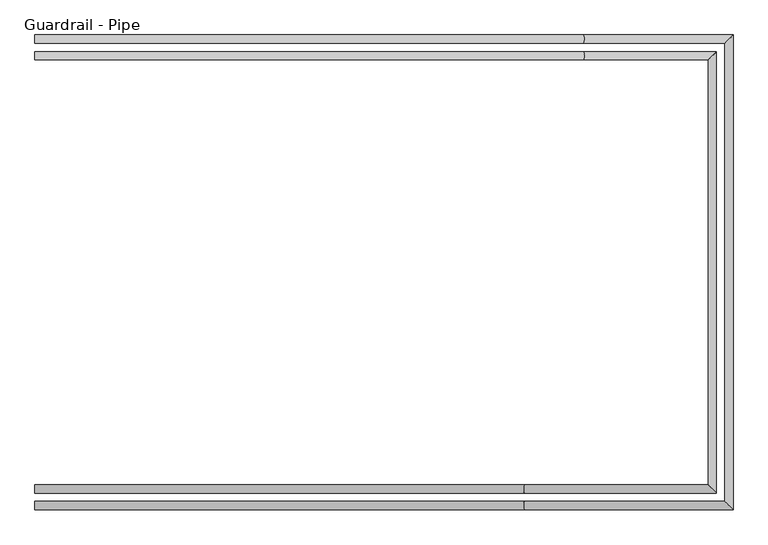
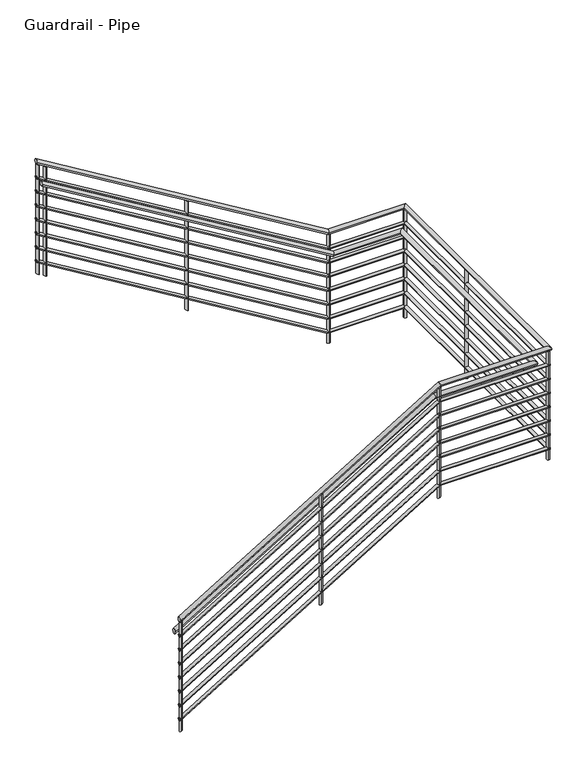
"""IFC4 building model written with IfcOpenShell, lengths in millimetres: railing geometry, Guardrail - Pipe."""

from ifc_helpers import new_model, si_unit, point, frame, frame_2d, origin, place, context, project, spatial, circle_curve, ellipse_curve, trimmed, segment, composite_curve, outline, extrude, source, transform, mapped, element, save
from ifc_brep_helpers import plane_surface, cylinder_surface, advanced_brep


def guardrail_pipe_b2484e20(model_context):
    return source(origin(), model_context, "Body", "SolidModel", [
        advanced_brep(
        [(-2912.5266552, 8373.427236, 1213.8577857), (-2912.5266552, 8335.327236, 1213.8577857), (-672.0045016, 8373.427236, 2571.75), (-672.0045016, 8335.327236, 2571.75), (243.4233448, 8373.427236, 2571.75), (281.5233448, 8335.327236, 2571.75), (243.4233448, 10468.927236, 2571.75), (281.5233448, 10507.027236, 2571.75), (-403.2488087, 10468.927236, 2571.75), (-403.2488087, 10507.027236, 2571.75), (-2912.5266552, 10468.927236, 4092.5244524), (-2912.5266552, 10507.027236, 4092.5244524)],
        [
            (0, 1, ellipse_curve(frame((-2912.5266552, 8354.377236, 1213.8577857), z_axis=(-1.0, 0.0, 0.0), x_axis=(0.0, 0.0, -1.0)), 22.2755476, 19.05)),
            (1, 0, ellipse_curve(frame((-2912.5266552, 8354.377236, 1213.8577857), z_axis=(-1.0, 0.0, 0.0), x_axis=(0.0, 0.0, -1.0)), 22.2755476, 19.05)),
            (0, 2),
            (2, 3, ellipse_curve(frame((-672.0045016, 8354.377236, 2571.75), z_axis=(-0.9631193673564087, 0.0, -0.2690744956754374), x_axis=(0.26907449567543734, 0.0, -0.9631193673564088)), 19.7794797, 19.05)),
            (3, 1),
            (3, 2, ellipse_curve(frame((-672.0045016, 8354.377236, 2571.75), z_axis=(-0.9631193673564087, 0.0, -0.2690744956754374), x_axis=(0.26907449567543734, 0.0, -0.9631193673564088)), 19.7794797, 19.05)),
            (2, 4),
            (4, 5, ellipse_curve(frame((262.4733448, 8354.377236, 2571.75), z_axis=(-0.7071067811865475, -0.7071067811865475, 0.0), x_axis=(-0.7071067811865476, 0.7071067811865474, 0.0)), 26.9407684, 19.05)),
            (5, 3),
            (5, 4, ellipse_curve(frame((262.4733448, 8354.377236, 2571.75), z_axis=(-0.7071067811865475, -0.7071067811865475, 0.0), x_axis=(-0.7071067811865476, 0.7071067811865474, 0.0)), 26.9407684, 19.05)),
            (4, 6),
            (6, 7, ellipse_curve(frame((262.4733448, 10487.977236, 2571.75), z_axis=(0.7071067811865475, -0.7071067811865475, 0.0), x_axis=(-0.7071067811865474, -0.7071067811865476, 0.0)), 26.9407684, 19.05)),
            (7, 5),
            (7, 6, ellipse_curve(frame((262.4733448, 10487.977236, 2571.75), z_axis=(0.7071067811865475, -0.7071067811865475, 0.0), x_axis=(-0.7071067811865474, -0.7071067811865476, 0.0)), 26.9407684, 19.05)),
            (6, 8),
            (8, 9, ellipse_curve(frame((-403.2488087, 10487.977236, 2571.75), z_axis=(0.9631193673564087, 0.0, -0.26907449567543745), x_axis=(0.26907449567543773, 0.0, 0.9631193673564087)), 19.7794797, 19.05)),
            (9, 7),
            (9, 8, ellipse_curve(frame((-403.2488087, 10487.977236, 2571.75), z_axis=(0.9631193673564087, 0.0, -0.26907449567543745), x_axis=(0.26907449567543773, 0.0, 0.9631193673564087)), 19.7794797, 19.05)),
            (10, 11, ellipse_curve(frame((-2912.5266552, 10487.977236, 4092.5244524), z_axis=(-1.0, 0.0, 0.0), x_axis=(0.0, 0.0, -1.0)), 22.2755476, 19.05)),
            (11, 10, ellipse_curve(frame((-2912.5266552, 10487.977236, 4092.5244524), z_axis=(-1.0, 0.0, 0.0), x_axis=(0.0, 0.0, -1.0)), 22.2755476, 19.05)),
            (8, 10),
            (11, 9),
        ],
        [
            plane_surface(frame((-2912.5266552, 8354.377236, 1236.1333333), z_axis=(-1.0, 0.0, 0.0), x_axis=(0.0, 1.0, 0.0))),
            cylinder_surface(frame((-2902.6530075, 8354.377236, 1219.8418146), z_axis=(-0.8551978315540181, 0.0, -0.5183017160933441), x_axis=(0.0, -1.0, 0.0)), 19.05),
            cylinder_surface(frame((-677.3266552, 8354.377236, 2571.75), z_axis=(-1.0, 0.0, 0.0), x_axis=(0.0, -1.0, 0.0)), 19.05),
            cylinder_surface(frame((262.4733448, 8354.377236, 2571.75), z_axis=(0.0, -1.0, 0.0), x_axis=(1.0, 0.0, 0.0)), 19.05),
            cylinder_surface(frame((262.4733448, 10487.977236, 2571.75), z_axis=(1.0, 0.0, 0.0), x_axis=(0.0, 1.0, 0.0)), 19.05),
            plane_surface(frame((-2912.5266552, 10487.977236, 4114.8), z_axis=(-1.0, 0.0, 0.0), x_axis=(0.0, -1.0, 0.0))),
            cylinder_surface(frame((-407.8003029, 10487.977236, 2574.5084813), z_axis=(0.855197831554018, 0.0, -0.5183017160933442), x_axis=(0.0, 1.0, 0.0)), 19.05),
        ],
        [
            (0, [[1, 2]]),
            (1, [[-1, 3, 4, 5]]),
            (1, [[-2, -5, 6, -3]]),
            (2, [[-4, 7, 8, 9]]),
            (2, [[-6, -9, 10, -7]]),
            (3, [[-8, 11, 12, 13]]),
            (3, [[-10, -13, 14, -11]]),
            (4, [[-12, 15, 16, 17]]),
            (4, [[-14, -17, 18, -15]]),
            (5, [[19, 20]]),
            (6, [[-16, 21, -20, 22]]),
            (6, [[-18, -22, -19, -21]]),
        ],
    ),
        advanced_brep(
        [(-2912.5266552, 8367.077236, 1068.8829683), (-2912.5266552, 8341.677236, 1068.8829683), (-673.7785528, 8367.077236, 2425.7), (-673.7785528, 8341.677236, 2425.7), (249.7733448, 8367.077236, 2425.7), (275.1733448, 8341.677236, 2425.7), (249.7733448, 10475.277236, 2425.7), (275.1733448, 10500.677236, 2425.7), (-401.4747575, 10475.277236, 2425.7), (-401.4747575, 10500.677236, 2425.7), (-2912.5266552, 10475.277236, 3947.5496349), (-2912.5266552, 10500.677236, 3947.5496349)],
        [
            (0, 1, ellipse_curve(frame((-2912.5266552, 8354.377236, 1068.8829683), z_axis=(-1.0, 0.0, 0.0), x_axis=(0.0, 0.0, -1.0)), 14.8503651, 12.7)),
            (1, 0, ellipse_curve(frame((-2912.5266552, 8354.377236, 1068.8829683), z_axis=(-1.0, 0.0, 0.0), x_axis=(0.0, 0.0, -1.0)), 14.8503651, 12.7)),
            (0, 2),
            (2, 3, ellipse_curve(frame((-673.7785528, 8354.377236, 2425.7), z_axis=(-0.9631193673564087, 0.0, -0.2690744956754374), x_axis=(0.26907449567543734, 0.0, -0.9631193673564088)), 13.1863198, 12.7)),
            (3, 1),
            (3, 2, ellipse_curve(frame((-673.7785528, 8354.377236, 2425.7), z_axis=(-0.9631193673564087, 0.0, -0.2690744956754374), x_axis=(0.26907449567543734, 0.0, -0.9631193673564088)), 13.1863198, 12.7)),
            (2, 4),
            (4, 5, ellipse_curve(frame((262.4733448, 8354.377236, 2425.7), z_axis=(-0.7071067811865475, -0.7071067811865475, 0.0), x_axis=(-0.7071067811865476, 0.7071067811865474, 0.0)), 17.9605122, 12.7)),
            (5, 3),
            (5, 4, ellipse_curve(frame((262.4733448, 8354.377236, 2425.7), z_axis=(-0.7071067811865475, -0.7071067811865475, 0.0), x_axis=(-0.7071067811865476, 0.7071067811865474, 0.0)), 17.9605122, 12.7)),
            (4, 6),
            (6, 7, ellipse_curve(frame((262.4733448, 10487.977236, 2425.7), z_axis=(0.7071067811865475, -0.7071067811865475, 0.0), x_axis=(-0.7071067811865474, -0.7071067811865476, 0.0)), 17.9605122, 12.7)),
            (7, 5),
            (7, 6, ellipse_curve(frame((262.4733448, 10487.977236, 2425.7), z_axis=(0.7071067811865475, -0.7071067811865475, 0.0), x_axis=(-0.7071067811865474, -0.7071067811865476, 0.0)), 17.9605122, 12.7)),
            (6, 8),
            (8, 9, ellipse_curve(frame((-401.4747575, 10487.977236, 2425.7), z_axis=(0.9631193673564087, 0.0, -0.26907449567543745), x_axis=(0.26907449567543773, 0.0, 0.9631193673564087)), 13.1863198, 12.7)),
            (9, 7),
            (9, 8, ellipse_curve(frame((-401.4747575, 10487.977236, 2425.7), z_axis=(0.9631193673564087, 0.0, -0.26907449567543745), x_axis=(0.26907449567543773, 0.0, 0.9631193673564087)), 13.1863198, 12.7)),
            (10, 11, ellipse_curve(frame((-2912.5266552, 10487.977236, 3947.5496349), z_axis=(-1.0, 0.0, 0.0), x_axis=(0.0, 0.0, -1.0)), 14.8503651, 12.7)),
            (11, 10, ellipse_curve(frame((-2912.5266552, 10487.977236, 3947.5496349), z_axis=(-1.0, 0.0, 0.0), x_axis=(0.0, 0.0, -1.0)), 14.8503651, 12.7)),
            (8, 10),
            (11, 9),
        ],
        [
            plane_surface(frame((-2912.5266552, 8354.377236, 1083.7333333), z_axis=(-1.0, 0.0, 0.0), x_axis=(0.0, 1.0, 0.0))),
            cylinder_surface(frame((-2905.9442234, 8354.377236, 1072.8723209), z_axis=(-0.8551978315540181, 0.0, -0.5183017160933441), x_axis=(0.0, -1.0, 0.0)), 12.7),
            cylinder_surface(frame((-677.3266552, 8354.377236, 2425.7), z_axis=(-1.0, 0.0, 0.0), x_axis=(0.0, -1.0, 0.0)), 12.7),
            cylinder_surface(frame((262.4733448, 8354.377236, 2425.7), z_axis=(0.0, -1.0, 0.0), x_axis=(1.0, 0.0, 0.0)), 12.7),
            cylinder_surface(frame((262.4733448, 10487.977236, 2425.7), z_axis=(1.0, 0.0, 0.0), x_axis=(0.0, 1.0, 0.0)), 12.7),
            plane_surface(frame((-2912.5266552, 10487.977236, 3962.4), z_axis=(-1.0, 0.0, 0.0), x_axis=(0.0, -1.0, 0.0))),
            cylinder_surface(frame((-404.509087, 10487.977236, 2427.5389875), z_axis=(0.855197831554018, 0.0, -0.5183017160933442), x_axis=(0.0, 1.0, 0.0)), 12.7),
        ],
        [
            (0, [[1, 2]]),
            (1, [[-1, 3, 4, 5]]),
            (1, [[-2, -5, 6, -3]]),
            (2, [[-4, 7, 8, 9]]),
            (2, [[-6, -9, 10, -7]]),
            (3, [[-8, 11, 12, 13]]),
            (3, [[-10, -13, 14, -11]]),
            (4, [[-12, 15, 16, 17]]),
            (4, [[-14, -17, 18, -15]]),
            (5, [[19, 20]]),
            (6, [[-16, 21, -20, 22]]),
            (6, [[-18, -22, -19, -21]]),
        ],
    ),
        advanced_brep(
        [(-2912.5266552, 8449.627236, 1061.4577857), (-2912.5266552, 8411.527236, 1061.4577857), (-672.0045016, 8449.627236, 2419.35), (-672.0045016, 8411.527236, 2419.35), (167.2233448, 8449.627236, 2419.35), (205.3233448, 8411.527236, 2419.35), (167.2233448, 10392.727236, 2419.35), (205.3233448, 10430.827236, 2419.35), (-403.2488087, 10392.727236, 2419.35), (-403.2488087, 10430.827236, 2419.35), (-2912.5266552, 10392.727236, 3940.1244524), (-2912.5266552, 10430.827236, 3940.1244524)],
        [
            (0, 1, ellipse_curve(frame((-2912.5266552, 8430.577236, 1061.4577857), z_axis=(-1.0, 0.0, 0.0), x_axis=(0.0, 0.0, -1.0)), 22.2755476, 19.05)),
            (1, 0, ellipse_curve(frame((-2912.5266552, 8430.577236, 1061.4577857), z_axis=(-1.0, 0.0, 0.0), x_axis=(0.0, 0.0, -1.0)), 22.2755476, 19.05)),
            (0, 2),
            (2, 3, ellipse_curve(frame((-672.0045016, 8430.577236, 2419.35), z_axis=(-0.9631193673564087, 0.0, -0.2690744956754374), x_axis=(0.26907449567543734, 0.0, -0.9631193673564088)), 19.7794797, 19.05)),
            (3, 1),
            (3, 2, ellipse_curve(frame((-672.0045016, 8430.577236, 2419.35), z_axis=(-0.9631193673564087, 0.0, -0.2690744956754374), x_axis=(0.26907449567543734, 0.0, -0.9631193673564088)), 19.7794797, 19.05)),
            (2, 4),
            (4, 5, ellipse_curve(frame((186.2733448, 8430.577236, 2419.35), z_axis=(-0.7071067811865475, -0.7071067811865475, 0.0), x_axis=(-0.7071067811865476, 0.7071067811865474, 0.0)), 26.9407684, 19.05)),
            (5, 3),
            (5, 4, ellipse_curve(frame((186.2733448, 8430.577236, 2419.35), z_axis=(-0.7071067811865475, -0.7071067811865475, 0.0), x_axis=(-0.7071067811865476, 0.7071067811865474, 0.0)), 26.9407684, 19.05)),
            (4, 6),
            (6, 7, ellipse_curve(frame((186.2733448, 10411.777236, 2419.35), z_axis=(0.7071067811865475, -0.7071067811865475, 0.0), x_axis=(-0.7071067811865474, -0.7071067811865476, 0.0)), 26.9407684, 19.05)),
            (7, 5),
            (7, 6, ellipse_curve(frame((186.2733448, 10411.777236, 2419.35), z_axis=(0.7071067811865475, -0.7071067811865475, 0.0), x_axis=(-0.7071067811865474, -0.7071067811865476, 0.0)), 26.9407684, 19.05)),
            (6, 8),
            (8, 9, ellipse_curve(frame((-403.2488087, 10411.777236, 2419.35), z_axis=(0.9631193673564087, 0.0, -0.26907449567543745), x_axis=(0.26907449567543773, 0.0, 0.9631193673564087)), 19.7794797, 19.05)),
            (9, 7),
            (9, 8, ellipse_curve(frame((-403.2488087, 10411.777236, 2419.35), z_axis=(0.9631193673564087, 0.0, -0.26907449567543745), x_axis=(0.26907449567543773, 0.0, 0.9631193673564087)), 19.7794797, 19.05)),
            (10, 11, ellipse_curve(frame((-2912.5266552, 10411.777236, 3940.1244524), z_axis=(-1.0, 0.0, 0.0), x_axis=(0.0, 0.0, -1.0)), 22.2755476, 19.05)),
            (11, 10, ellipse_curve(frame((-2912.5266552, 10411.777236, 3940.1244524), z_axis=(-1.0, 0.0, 0.0), x_axis=(0.0, 0.0, -1.0)), 22.2755476, 19.05)),
            (8, 10),
            (11, 9),
        ],
        [
            plane_surface(frame((-2912.5266552, 8430.577236, 1083.7333333), z_axis=(-1.0, 0.0, 0.0), x_axis=(0.0, 1.0, 0.0))),
            cylinder_surface(frame((-2902.6530075, 8430.577236, 1067.4418146), z_axis=(-0.8551978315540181, 0.0, -0.5183017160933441), x_axis=(0.0, -1.0, 0.0)), 19.05),
            cylinder_surface(frame((-677.3266552, 8430.577236, 2419.35), z_axis=(-1.0, 0.0, 0.0), x_axis=(0.0, -1.0, 0.0)), 19.05),
            cylinder_surface(frame((186.2733448, 8430.577236, 2419.35), z_axis=(0.0, -1.0, 0.0), x_axis=(1.0, 0.0, 0.0)), 19.05),
            cylinder_surface(frame((186.2733448, 10411.777236, 2419.35), z_axis=(1.0, 0.0, 0.0), x_axis=(0.0, 1.0, 0.0)), 19.05),
            plane_surface(frame((-2912.5266552, 10411.777236, 3962.4), z_axis=(-1.0, 0.0, 0.0), x_axis=(0.0, -1.0, 0.0))),
            cylinder_surface(frame((-407.8003029, 10411.777236, 2422.1084813), z_axis=(0.855197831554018, 0.0, -0.5183017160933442), x_axis=(0.0, 1.0, 0.0)), 19.05),
        ],
        [
            (0, [[1, 2]]),
            (1, [[-1, 3, 4, 5]]),
            (1, [[-2, -5, 6, -3]]),
            (2, [[-4, 7, 8, 9]]),
            (2, [[-6, -9, 10, -7]]),
            (3, [[-8, 11, 12, 13]]),
            (3, [[-10, -13, 14, -11]]),
            (4, [[-12, 15, 16, 17]]),
            (4, [[-14, -17, 18, -15]]),
            (5, [[19, 20]]),
            (6, [[-16, 21, -20, 22]]),
            (6, [[-18, -22, -19, -21]]),
        ],
    ),
        advanced_brep(
        [(-2912.5266552, 8367.077236, 941.8829683), (-2912.5266552, 8341.677236, 941.8829683), (-673.7785528, 8367.077236, 2298.7), (-673.7785528, 8341.677236, 2298.7), (249.7733448, 8367.077236, 2298.7), (275.1733448, 8341.677236, 2298.7), (249.7733448, 10475.277236, 2298.7), (275.1733448, 10500.677236, 2298.7), (-401.4747575, 10475.277236, 2298.7), (-401.4747575, 10500.677236, 2298.7), (-2912.5266552, 10475.277236, 3820.5496349), (-2912.5266552, 10500.677236, 3820.5496349)],
        [
            (0, 1, ellipse_curve(frame((-2912.5266552, 8354.377236, 941.8829683), z_axis=(-1.0, 0.0, 0.0), x_axis=(0.0, 0.0, -1.0)), 14.8503651, 12.7)),
            (1, 0, ellipse_curve(frame((-2912.5266552, 8354.377236, 941.8829683), z_axis=(-1.0, 0.0, 0.0), x_axis=(0.0, 0.0, -1.0)), 14.8503651, 12.7)),
            (0, 2),
            (2, 3, ellipse_curve(frame((-673.7785528, 8354.377236, 2298.7), z_axis=(-0.9631193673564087, 0.0, -0.2690744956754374), x_axis=(0.26907449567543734, 0.0, -0.9631193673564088)), 13.1863198, 12.7)),
            (3, 1),
            (3, 2, ellipse_curve(frame((-673.7785528, 8354.377236, 2298.7), z_axis=(-0.9631193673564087, 0.0, -0.2690744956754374), x_axis=(0.26907449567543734, 0.0, -0.9631193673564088)), 13.1863198, 12.7)),
            (2, 4),
            (4, 5, ellipse_curve(frame((262.4733448, 8354.377236, 2298.7), z_axis=(-0.7071067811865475, -0.7071067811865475, 0.0), x_axis=(-0.7071067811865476, 0.7071067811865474, 0.0)), 17.9605122, 12.7)),
            (5, 3),
            (5, 4, ellipse_curve(frame((262.4733448, 8354.377236, 2298.7), z_axis=(-0.7071067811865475, -0.7071067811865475, 0.0), x_axis=(-0.7071067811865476, 0.7071067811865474, 0.0)), 17.9605122, 12.7)),
            (4, 6),
            (6, 7, ellipse_curve(frame((262.4733448, 10487.977236, 2298.7), z_axis=(0.7071067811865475, -0.7071067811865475, 0.0), x_axis=(-0.7071067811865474, -0.7071067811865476, 0.0)), 17.9605122, 12.7)),
            (7, 5),
            (7, 6, ellipse_curve(frame((262.4733448, 10487.977236, 2298.7), z_axis=(0.7071067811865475, -0.7071067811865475, 0.0), x_axis=(-0.7071067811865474, -0.7071067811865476, 0.0)), 17.9605122, 12.7)),
            (6, 8),
            (8, 9, ellipse_curve(frame((-401.4747575, 10487.977236, 2298.7), z_axis=(0.9631193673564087, 0.0, -0.26907449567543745), x_axis=(0.26907449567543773, 0.0, 0.9631193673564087)), 13.1863198, 12.7)),
            (9, 7),
            (9, 8, ellipse_curve(frame((-401.4747575, 10487.977236, 2298.7), z_axis=(0.9631193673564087, 0.0, -0.26907449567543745), x_axis=(0.26907449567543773, 0.0, 0.9631193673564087)), 13.1863198, 12.7)),
            (10, 11, ellipse_curve(frame((-2912.5266552, 10487.977236, 3820.5496349), z_axis=(-1.0, 0.0, 0.0), x_axis=(0.0, 0.0, -1.0)), 14.8503651, 12.7)),
            (11, 10, ellipse_curve(frame((-2912.5266552, 10487.977236, 3820.5496349), z_axis=(-1.0, 0.0, 0.0), x_axis=(0.0, 0.0, -1.0)), 14.8503651, 12.7)),
            (8, 10),
            (11, 9),
        ],
        [
            plane_surface(frame((-2912.5266552, 8354.377236, 956.7333333), z_axis=(-1.0, 0.0, 0.0), x_axis=(0.0, 1.0, 0.0))),
            cylinder_surface(frame((-2905.9442234, 8354.377236, 945.8723209), z_axis=(-0.8551978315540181, 0.0, -0.5183017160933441), x_axis=(0.0, -1.0, 0.0)), 12.7),
            cylinder_surface(frame((-677.3266552, 8354.377236, 2298.7), z_axis=(-1.0, 0.0, 0.0), x_axis=(0.0, -1.0, 0.0)), 12.7),
            cylinder_surface(frame((262.4733448, 8354.377236, 2298.7), z_axis=(0.0, -1.0, 0.0), x_axis=(1.0, 0.0, 0.0)), 12.7),
            cylinder_surface(frame((262.4733448, 10487.977236, 2298.7), z_axis=(1.0, 0.0, 0.0), x_axis=(0.0, 1.0, 0.0)), 12.7),
            plane_surface(frame((-2912.5266552, 10487.977236, 3835.4), z_axis=(-1.0, 0.0, 0.0), x_axis=(0.0, -1.0, 0.0))),
            cylinder_surface(frame((-404.509087, 10487.977236, 2300.5389875), z_axis=(0.8551978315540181, 0.0, -0.5183017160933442), x_axis=(0.0, 1.0, 0.0)), 12.7),
        ],
        [
            (0, [[1, 2]]),
            (1, [[-1, 3, 4, 5]]),
            (1, [[-2, -5, 6, -3]]),
            (2, [[-4, 7, 8, 9]]),
            (2, [[-6, -9, 10, -7]]),
            (3, [[-8, 11, 12, 13]]),
            (3, [[-10, -13, 14, -11]]),
            (4, [[-12, 15, 16, 17]]),
            (4, [[-14, -17, 18, -15]]),
            (5, [[19, 20]]),
            (6, [[-16, 21, -20, 22]]),
            (6, [[-18, -22, -19, -21]]),
        ],
    ),
        advanced_brep(
        [(-2912.5266552, 8367.077236, 814.8829683), (-2912.5266552, 8341.677236, 814.8829683), (-673.7785528, 8367.077236, 2171.7), (-673.7785528, 8341.677236, 2171.7), (249.7733448, 8367.077236, 2171.7), (275.1733448, 8341.677236, 2171.7), (249.7733448, 10475.277236, 2171.7), (275.1733448, 10500.677236, 2171.7), (-401.4747575, 10475.277236, 2171.7), (-401.4747575, 10500.677236, 2171.7), (-2912.5266552, 10475.277236, 3693.5496349), (-2912.5266552, 10500.677236, 3693.5496349)],
        [
            (0, 1, ellipse_curve(frame((-2912.5266552, 8354.377236, 814.8829683), z_axis=(-1.0, 0.0, 0.0), x_axis=(0.0, 0.0, -1.0)), 14.8503651, 12.7)),
            (1, 0, ellipse_curve(frame((-2912.5266552, 8354.377236, 814.8829683), z_axis=(-1.0, 0.0, 0.0), x_axis=(0.0, 0.0, -1.0)), 14.8503651, 12.7)),
            (0, 2),
            (2, 3, ellipse_curve(frame((-673.7785528, 8354.377236, 2171.7), z_axis=(-0.9631193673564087, 0.0, -0.2690744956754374), x_axis=(0.26907449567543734, 0.0, -0.9631193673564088)), 13.1863198, 12.7)),
            (3, 1),
            (3, 2, ellipse_curve(frame((-673.7785528, 8354.377236, 2171.7), z_axis=(-0.9631193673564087, 0.0, -0.2690744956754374), x_axis=(0.26907449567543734, 0.0, -0.9631193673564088)), 13.1863198, 12.7)),
            (2, 4),
            (4, 5, ellipse_curve(frame((262.4733448, 8354.377236, 2171.7), z_axis=(-0.7071067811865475, -0.7071067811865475, 0.0), x_axis=(-0.7071067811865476, 0.7071067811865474, 0.0)), 17.9605122, 12.7)),
            (5, 3),
            (5, 4, ellipse_curve(frame((262.4733448, 8354.377236, 2171.7), z_axis=(-0.7071067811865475, -0.7071067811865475, 0.0), x_axis=(-0.7071067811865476, 0.7071067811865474, 0.0)), 17.9605122, 12.7)),
            (4, 6),
            (6, 7, ellipse_curve(frame((262.4733448, 10487.977236, 2171.7), z_axis=(0.7071067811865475, -0.7071067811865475, 0.0), x_axis=(-0.7071067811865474, -0.7071067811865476, 0.0)), 17.9605122, 12.7)),
            (7, 5),
            (7, 6, ellipse_curve(frame((262.4733448, 10487.977236, 2171.7), z_axis=(0.7071067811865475, -0.7071067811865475, 0.0), x_axis=(-0.7071067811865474, -0.7071067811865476, 0.0)), 17.9605122, 12.7)),
            (6, 8),
            (8, 9, ellipse_curve(frame((-401.4747575, 10487.977236, 2171.7), z_axis=(0.9631193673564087, 0.0, -0.26907449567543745), x_axis=(0.26907449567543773, 0.0, 0.9631193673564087)), 13.1863198, 12.7)),
            (9, 7),
            (9, 8, ellipse_curve(frame((-401.4747575, 10487.977236, 2171.7), z_axis=(0.9631193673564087, 0.0, -0.26907449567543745), x_axis=(0.26907449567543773, 0.0, 0.9631193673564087)), 13.1863198, 12.7)),
            (10, 11, ellipse_curve(frame((-2912.5266552, 10487.977236, 3693.5496349), z_axis=(-1.0, 0.0, 0.0), x_axis=(0.0, 0.0, -1.0)), 14.8503651, 12.7)),
            (11, 10, ellipse_curve(frame((-2912.5266552, 10487.977236, 3693.5496349), z_axis=(-1.0, 0.0, 0.0), x_axis=(0.0, 0.0, -1.0)), 14.8503651, 12.7)),
            (8, 10),
            (11, 9),
        ],
        [
            plane_surface(frame((-2912.5266552, 8354.377236, 829.7333333), z_axis=(-1.0, 0.0, 0.0), x_axis=(0.0, 1.0, 0.0))),
            cylinder_surface(frame((-2905.9442234, 8354.377236, 818.8723209), z_axis=(-0.8551978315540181, 0.0, -0.5183017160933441), x_axis=(0.0, -1.0, 0.0)), 12.7),
            cylinder_surface(frame((-677.3266552, 8354.377236, 2171.7), z_axis=(-1.0, 0.0, 0.0), x_axis=(0.0, -1.0, 0.0)), 12.7),
            cylinder_surface(frame((262.4733448, 8354.377236, 2171.7), z_axis=(0.0, -1.0, 0.0), x_axis=(1.0, 0.0, 0.0)), 12.7),
            cylinder_surface(frame((262.4733448, 10487.977236, 2171.7), z_axis=(1.0, 0.0, 0.0), x_axis=(0.0, 1.0, 0.0)), 12.7),
            plane_surface(frame((-2912.5266552, 10487.977236, 3708.4), z_axis=(-1.0, 0.0, 0.0), x_axis=(0.0, -1.0, 0.0))),
            cylinder_surface(frame((-404.509087, 10487.977236, 2173.5389875), z_axis=(0.855197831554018, 0.0, -0.5183017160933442), x_axis=(0.0, 1.0, 0.0)), 12.7),
        ],
        [
            (0, [[1, 2]]),
            (1, [[-1, 3, 4, 5]]),
            (1, [[-2, -5, 6, -3]]),
            (2, [[-4, 7, 8, 9]]),
            (2, [[-6, -9, 10, -7]]),
            (3, [[-8, 11, 12, 13]]),
            (3, [[-10, -13, 14, -11]]),
            (4, [[-12, 15, 16, 17]]),
            (4, [[-14, -17, 18, -15]]),
            (5, [[19, 20]]),
            (6, [[-16, 21, -20, 22]]),
            (6, [[-18, -22, -19, -21]]),
        ],
    ),
        advanced_brep(
        [(-2912.5266552, 8367.077236, 687.8829683), (-2912.5266552, 8341.677236, 687.8829683), (-673.7785528, 8367.077236, 2044.7), (-673.7785528, 8341.677236, 2044.7), (249.7733448, 8367.077236, 2044.7), (275.1733448, 8341.677236, 2044.7), (249.7733448, 10475.277236, 2044.7), (275.1733448, 10500.677236, 2044.7), (-401.4747575, 10475.277236, 2044.7), (-401.4747575, 10500.677236, 2044.7), (-2912.5266552, 10475.277236, 3566.5496349), (-2912.5266552, 10500.677236, 3566.5496349)],
        [
            (0, 1, ellipse_curve(frame((-2912.5266552, 8354.377236, 687.8829683), z_axis=(-1.0, 0.0, 0.0), x_axis=(0.0, 0.0, -1.0)), 14.8503651, 12.7)),
            (1, 0, ellipse_curve(frame((-2912.5266552, 8354.377236, 687.8829683), z_axis=(-1.0, 0.0, 0.0), x_axis=(0.0, 0.0, -1.0)), 14.8503651, 12.7)),
            (0, 2),
            (2, 3, ellipse_curve(frame((-673.7785528, 8354.377236, 2044.7), z_axis=(-0.9631193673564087, 0.0, -0.2690744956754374), x_axis=(0.26907449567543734, 0.0, -0.9631193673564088)), 13.1863198, 12.7)),
            (3, 1),
            (3, 2, ellipse_curve(frame((-673.7785528, 8354.377236, 2044.7), z_axis=(-0.9631193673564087, 0.0, -0.2690744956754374), x_axis=(0.26907449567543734, 0.0, -0.9631193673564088)), 13.1863198, 12.7)),
            (2, 4),
            (4, 5, ellipse_curve(frame((262.4733448, 8354.377236, 2044.7), z_axis=(-0.7071067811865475, -0.7071067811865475, 0.0), x_axis=(-0.7071067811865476, 0.7071067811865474, 0.0)), 17.9605122, 12.7)),
            (5, 3),
            (5, 4, ellipse_curve(frame((262.4733448, 8354.377236, 2044.7), z_axis=(-0.7071067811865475, -0.7071067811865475, 0.0), x_axis=(-0.7071067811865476, 0.7071067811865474, 0.0)), 17.9605122, 12.7)),
            (4, 6),
            (6, 7, ellipse_curve(frame((262.4733448, 10487.977236, 2044.7), z_axis=(0.7071067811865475, -0.7071067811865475, 0.0), x_axis=(-0.7071067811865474, -0.7071067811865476, 0.0)), 17.9605122, 12.7)),
            (7, 5),
            (7, 6, ellipse_curve(frame((262.4733448, 10487.977236, 2044.7), z_axis=(0.7071067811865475, -0.7071067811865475, 0.0), x_axis=(-0.7071067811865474, -0.7071067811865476, 0.0)), 17.9605122, 12.7)),
            (6, 8),
            (8, 9, ellipse_curve(frame((-401.4747575, 10487.977236, 2044.7), z_axis=(0.9631193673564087, 0.0, -0.26907449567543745), x_axis=(0.26907449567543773, 0.0, 0.9631193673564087)), 13.1863198, 12.7)),
            (9, 7),
            (9, 8, ellipse_curve(frame((-401.4747575, 10487.977236, 2044.7), z_axis=(0.9631193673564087, 0.0, -0.26907449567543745), x_axis=(0.26907449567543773, 0.0, 0.9631193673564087)), 13.1863198, 12.7)),
            (10, 11, ellipse_curve(frame((-2912.5266552, 10487.977236, 3566.5496349), z_axis=(-1.0, 0.0, 0.0), x_axis=(0.0, 0.0, -1.0)), 14.8503651, 12.7)),
            (11, 10, ellipse_curve(frame((-2912.5266552, 10487.977236, 3566.5496349), z_axis=(-1.0, 0.0, 0.0), x_axis=(0.0, 0.0, -1.0)), 14.8503651, 12.7)),
            (8, 10),
            (11, 9),
        ],
        [
            plane_surface(frame((-2912.5266552, 8354.377236, 702.7333333), z_axis=(-1.0, 0.0, 0.0), x_axis=(0.0, 1.0, 0.0))),
            cylinder_surface(frame((-2905.9442234, 8354.377236, 691.8723209), z_axis=(-0.8551978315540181, 0.0, -0.5183017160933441), x_axis=(0.0, -1.0, 0.0)), 12.7),
            cylinder_surface(frame((-677.3266552, 8354.377236, 2044.7), z_axis=(-1.0, 0.0, 0.0), x_axis=(0.0, -1.0, 0.0)), 12.7),
            cylinder_surface(frame((262.4733448, 8354.377236, 2044.7), z_axis=(0.0, -1.0, 0.0), x_axis=(1.0, 0.0, 0.0)), 12.7),
            cylinder_surface(frame((262.4733448, 10487.977236, 2044.7), z_axis=(1.0, 0.0, 0.0), x_axis=(0.0, 1.0, 0.0)), 12.7),
            plane_surface(frame((-2912.5266552, 10487.977236, 3581.4), z_axis=(-1.0, 0.0, 0.0), x_axis=(0.0, -1.0, 0.0))),
            cylinder_surface(frame((-404.509087, 10487.977236, 2046.5389875), z_axis=(0.855197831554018, 0.0, -0.5183017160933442), x_axis=(0.0, 1.0, 0.0)), 12.7),
        ],
        [
            (0, [[1, 2]]),
            (1, [[-1, 3, 4, 5]]),
            (1, [[-2, -5, 6, -3]]),
            (2, [[-4, 7, 8, 9]]),
            (2, [[-6, -9, 10, -7]]),
            (3, [[-8, 11, 12, 13]]),
            (3, [[-10, -13, 14, -11]]),
            (4, [[-12, 15, 16, 17]]),
            (4, [[-14, -17, 18, -15]]),
            (5, [[19, 20]]),
            (6, [[-16, 21, -20, 22]]),
            (6, [[-18, -22, -19, -21]]),
        ],
    ),
        advanced_brep(
        [(-2912.5266552, 8367.077236, 560.8829683), (-2912.5266552, 8341.677236, 560.8829683), (-673.7785528, 8367.077236, 1917.7), (-673.7785528, 8341.677236, 1917.7), (249.7733448, 8367.077236, 1917.7), (275.1733448, 8341.677236, 1917.7), (249.7733448, 10475.277236, 1917.7), (275.1733448, 10500.677236, 1917.7), (-401.4747575, 10475.277236, 1917.7), (-401.4747575, 10500.677236, 1917.7), (-2912.5266552, 10475.277236, 3439.5496349), (-2912.5266552, 10500.677236, 3439.5496349)],
        [
            (0, 1, ellipse_curve(frame((-2912.5266552, 8354.377236, 560.8829683), z_axis=(-1.0, 0.0, 0.0), x_axis=(0.0, 0.0, -1.0)), 14.8503651, 12.7)),
            (1, 0, ellipse_curve(frame((-2912.5266552, 8354.377236, 560.8829683), z_axis=(-1.0, 0.0, 0.0), x_axis=(0.0, 0.0, -1.0)), 14.8503651, 12.7)),
            (0, 2),
            (2, 3, ellipse_curve(frame((-673.7785528, 8354.377236, 1917.7), z_axis=(-0.9631193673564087, 0.0, -0.2690744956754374), x_axis=(0.26907449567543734, 0.0, -0.9631193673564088)), 13.1863198, 12.7)),
            (3, 1),
            (3, 2, ellipse_curve(frame((-673.7785528, 8354.377236, 1917.7), z_axis=(-0.9631193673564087, 0.0, -0.2690744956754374), x_axis=(0.26907449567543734, 0.0, -0.9631193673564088)), 13.1863198, 12.7)),
            (2, 4),
            (4, 5, ellipse_curve(frame((262.4733448, 8354.377236, 1917.7), z_axis=(-0.7071067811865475, -0.7071067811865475, 0.0), x_axis=(-0.7071067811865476, 0.7071067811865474, 0.0)), 17.9605122, 12.7)),
            (5, 3),
            (5, 4, ellipse_curve(frame((262.4733448, 8354.377236, 1917.7), z_axis=(-0.7071067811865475, -0.7071067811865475, 0.0), x_axis=(-0.7071067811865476, 0.7071067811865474, 0.0)), 17.9605122, 12.7)),
            (4, 6),
            (6, 7, ellipse_curve(frame((262.4733448, 10487.977236, 1917.7), z_axis=(0.7071067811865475, -0.7071067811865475, 0.0), x_axis=(-0.7071067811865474, -0.7071067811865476, 0.0)), 17.9605122, 12.7)),
            (7, 5),
            (7, 6, ellipse_curve(frame((262.4733448, 10487.977236, 1917.7), z_axis=(0.7071067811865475, -0.7071067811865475, 0.0), x_axis=(-0.7071067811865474, -0.7071067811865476, 0.0)), 17.9605122, 12.7)),
            (6, 8),
            (8, 9, ellipse_curve(frame((-401.4747575, 10487.977236, 1917.7), z_axis=(0.9631193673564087, 0.0, -0.2690744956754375), x_axis=(0.2690744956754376, 0.0, 0.9631193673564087)), 13.1863198, 12.7)),
            (9, 7),
            (9, 8, ellipse_curve(frame((-401.4747575, 10487.977236, 1917.7), z_axis=(0.9631193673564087, 0.0, -0.2690744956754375), x_axis=(0.2690744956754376, 0.0, 0.9631193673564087)), 13.1863198, 12.7)),
            (10, 11, ellipse_curve(frame((-2912.5266552, 10487.977236, 3439.5496349), z_axis=(-1.0, 0.0, 0.0), x_axis=(0.0, 0.0, -1.0)), 14.8503651, 12.7)),
            (11, 10, ellipse_curve(frame((-2912.5266552, 10487.977236, 3439.5496349), z_axis=(-1.0, 0.0, 0.0), x_axis=(0.0, 0.0, -1.0)), 14.8503651, 12.7)),
            (8, 10),
            (11, 9),
        ],
        [
            plane_surface(frame((-2912.5266552, 8354.377236, 575.7333333), z_axis=(-1.0, 0.0, 0.0), x_axis=(0.0, 1.0, 0.0))),
            cylinder_surface(frame((-2905.9442234, 8354.377236, 564.8723209), z_axis=(-0.8551978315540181, 0.0, -0.5183017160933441), x_axis=(0.0, -1.0, 0.0)), 12.7),
            cylinder_surface(frame((-677.3266552, 8354.377236, 1917.7), z_axis=(-1.0, 0.0, 0.0), x_axis=(0.0, -1.0, 0.0)), 12.7),
            cylinder_surface(frame((262.4733448, 8354.377236, 1917.7), z_axis=(0.0, -1.0, 0.0), x_axis=(1.0, 0.0, 0.0)), 12.7),
            cylinder_surface(frame((262.4733448, 10487.977236, 1917.7), z_axis=(1.0, 0.0, 0.0), x_axis=(0.0, 1.0, 0.0)), 12.7),
            plane_surface(frame((-2912.5266552, 10487.977236, 3454.4), z_axis=(-1.0, 0.0, 0.0), x_axis=(0.0, -1.0, 0.0))),
            cylinder_surface(frame((-404.509087, 10487.977236, 1919.5389875), z_axis=(0.855197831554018, 0.0, -0.5183017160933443), x_axis=(0.0, 1.0, 0.0)), 12.7),
        ],
        [
            (0, [[1, 2]]),
            (1, [[-1, 3, 4, 5]]),
            (1, [[-2, -5, 6, -3]]),
            (2, [[-4, 7, 8, 9]]),
            (2, [[-6, -9, 10, -7]]),
            (3, [[-8, 11, 12, 13]]),
            (3, [[-10, -13, 14, -11]]),
            (4, [[-12, 15, 16, 17]]),
            (4, [[-14, -17, 18, -15]]),
            (5, [[19, 20]]),
            (6, [[-16, 21, -20, 22]]),
            (6, [[-18, -22, -19, -21]]),
        ],
    ),
        advanced_brep(
        [(-2912.5266552, 8367.077236, 433.8829683), (-2912.5266552, 8341.677236, 433.8829683), (-673.7785528, 8367.077236, 1790.7), (-673.7785528, 8341.677236, 1790.7), (249.7733448, 8367.077236, 1790.7), (275.1733448, 8341.677236, 1790.7), (249.7733448, 10475.277236, 1790.7), (275.1733448, 10500.677236, 1790.7), (-401.4747575, 10475.277236, 1790.7), (-401.4747575, 10500.677236, 1790.7), (-2912.5266552, 10475.277236, 3312.5496349), (-2912.5266552, 10500.677236, 3312.5496349)],
        [
            (0, 1, ellipse_curve(frame((-2912.5266552, 8354.377236, 433.8829683), z_axis=(-1.0, 0.0, 0.0), x_axis=(0.0, 0.0, -1.0)), 14.8503651, 12.7)),
            (1, 0, ellipse_curve(frame((-2912.5266552, 8354.377236, 433.8829683), z_axis=(-1.0, 0.0, 0.0), x_axis=(0.0, 0.0, -1.0)), 14.8503651, 12.7)),
            (0, 2),
            (2, 3, ellipse_curve(frame((-673.7785528, 8354.377236, 1790.7), z_axis=(-0.9631193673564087, 0.0, -0.2690744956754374), x_axis=(0.2690744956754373, 0.0, -0.9631193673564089)), 13.1863198, 12.7)),
            (3, 1),
            (3, 2, ellipse_curve(frame((-673.7785528, 8354.377236, 1790.7), z_axis=(-0.9631193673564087, 0.0, -0.2690744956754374), x_axis=(0.2690744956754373, 0.0, -0.9631193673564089)), 13.1863198, 12.7)),
            (2, 4),
            (4, 5, ellipse_curve(frame((262.4733448, 8354.377236, 1790.7), z_axis=(-0.7071067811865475, -0.7071067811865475, 0.0), x_axis=(-0.7071067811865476, 0.7071067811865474, 0.0)), 17.9605122, 12.7)),
            (5, 3),
            (5, 4, ellipse_curve(frame((262.4733448, 8354.377236, 1790.7), z_axis=(-0.7071067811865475, -0.7071067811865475, 0.0), x_axis=(-0.7071067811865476, 0.7071067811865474, 0.0)), 17.9605122, 12.7)),
            (4, 6),
            (6, 7, ellipse_curve(frame((262.4733448, 10487.977236, 1790.7), z_axis=(0.7071067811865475, -0.7071067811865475, 0.0), x_axis=(-0.7071067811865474, -0.7071067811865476, 0.0)), 17.9605122, 12.7)),
            (7, 5),
            (7, 6, ellipse_curve(frame((262.4733448, 10487.977236, 1790.7), z_axis=(0.7071067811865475, -0.7071067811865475, 0.0), x_axis=(-0.7071067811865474, -0.7071067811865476, 0.0)), 17.9605122, 12.7)),
            (6, 8),
            (8, 9, ellipse_curve(frame((-401.4747575, 10487.977236, 1790.7), z_axis=(0.9631193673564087, 0.0, -0.2690744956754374), x_axis=(0.26907449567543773, 0.0, 0.9631193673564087)), 13.1863198, 12.7)),
            (9, 7),
            (9, 8, ellipse_curve(frame((-401.4747575, 10487.977236, 1790.7), z_axis=(0.9631193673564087, 0.0, -0.2690744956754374), x_axis=(0.26907449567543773, 0.0, 0.9631193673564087)), 13.1863198, 12.7)),
            (10, 11, ellipse_curve(frame((-2912.5266552, 10487.977236, 3312.5496349), z_axis=(-1.0, 0.0, 0.0), x_axis=(0.0, 0.0, -1.0)), 14.8503651, 12.7)),
            (11, 10, ellipse_curve(frame((-2912.5266552, 10487.977236, 3312.5496349), z_axis=(-1.0, 0.0, 0.0), x_axis=(0.0, 0.0, -1.0)), 14.8503651, 12.7)),
            (8, 10),
            (11, 9),
        ],
        [
            plane_surface(frame((-2912.5266552, 8354.377236, 448.7333333), z_axis=(-1.0, 0.0, 0.0), x_axis=(0.0, 1.0, 0.0))),
            cylinder_surface(frame((-2905.9442234, 8354.377236, 437.8723209), z_axis=(-0.855197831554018, 0.0, -0.5183017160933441), x_axis=(0.0, -1.0, 0.0)), 12.7),
            cylinder_surface(frame((-677.3266552, 8354.377236, 1790.7), z_axis=(-1.0, 0.0, 0.0), x_axis=(0.0, -1.0, 0.0)), 12.7),
            cylinder_surface(frame((262.4733448, 8354.377236, 1790.7), z_axis=(0.0, -1.0, 0.0), x_axis=(1.0, 0.0, 0.0)), 12.7),
            cylinder_surface(frame((262.4733448, 10487.977236, 1790.7), z_axis=(1.0, 0.0, 0.0), x_axis=(0.0, 1.0, 0.0)), 12.7),
            plane_surface(frame((-2912.5266552, 10487.977236, 3327.4), z_axis=(-1.0, 0.0, 0.0), x_axis=(0.0, -1.0, 0.0))),
            cylinder_surface(frame((-404.509087, 10487.977236, 1792.5389875), z_axis=(0.8551978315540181, 0.0, -0.5183017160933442), x_axis=(0.0, 1.0, 0.0)), 12.7),
        ],
        [
            (0, [[1, 2]]),
            (1, [[-1, 3, 4, 5]]),
            (1, [[-2, -5, 6, -3]]),
            (2, [[-4, 7, 8, 9]]),
            (2, [[-6, -9, 10, -7]]),
            (3, [[-8, 11, 12, 13]]),
            (3, [[-10, -13, 14, -11]]),
            (4, [[-12, 15, 16, 17]]),
            (4, [[-14, -17, 18, -15]]),
            (5, [[19, 20]]),
            (6, [[-16, 21, -20, 22]]),
            (6, [[-18, -22, -19, -21]]),
        ],
    ),
        advanced_brep(
        [(-2912.5266552, 8367.077236, 306.8829683), (-2912.5266552, 8341.677236, 306.8829683), (-673.7785528, 8367.077236, 1663.7), (-673.7785528, 8341.677236, 1663.7), (249.7733448, 8367.077236, 1663.7), (275.1733448, 8341.677236, 1663.7), (249.7733448, 10475.277236, 1663.7), (275.1733448, 10500.677236, 1663.7), (-401.4747575, 10475.277236, 1663.7), (-401.4747575, 10500.677236, 1663.7), (-2912.5266552, 10475.277236, 3185.5496349), (-2912.5266552, 10500.677236, 3185.5496349)],
        [
            (0, 1, ellipse_curve(frame((-2912.5266552, 8354.377236, 306.8829683), z_axis=(-1.0, 0.0, 0.0), x_axis=(0.0, 0.0, -1.0)), 14.8503651, 12.7)),
            (1, 0, ellipse_curve(frame((-2912.5266552, 8354.377236, 306.8829683), z_axis=(-1.0, 0.0, 0.0), x_axis=(0.0, 0.0, -1.0)), 14.8503651, 12.7)),
            (0, 2),
            (2, 3, ellipse_curve(frame((-673.7785528, 8354.377236, 1663.7), z_axis=(-0.9631193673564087, 0.0, -0.2690744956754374), x_axis=(0.26907449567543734, 0.0, -0.9631193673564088)), 13.1863198, 12.7)),
            (3, 1),
            (3, 2, ellipse_curve(frame((-673.7785528, 8354.377236, 1663.7), z_axis=(-0.9631193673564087, 0.0, -0.2690744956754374), x_axis=(0.26907449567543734, 0.0, -0.9631193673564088)), 13.1863198, 12.7)),
            (2, 4),
            (4, 5, ellipse_curve(frame((262.4733448, 8354.377236, 1663.7), z_axis=(-0.7071067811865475, -0.7071067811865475, 0.0), x_axis=(-0.7071067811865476, 0.7071067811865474, 0.0)), 17.9605122, 12.7)),
            (5, 3),
            (5, 4, ellipse_curve(frame((262.4733448, 8354.377236, 1663.7), z_axis=(-0.7071067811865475, -0.7071067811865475, 0.0), x_axis=(-0.7071067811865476, 0.7071067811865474, 0.0)), 17.9605122, 12.7)),
            (4, 6),
            (6, 7, ellipse_curve(frame((262.4733448, 10487.977236, 1663.7), z_axis=(0.7071067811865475, -0.7071067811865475, 0.0), x_axis=(-0.7071067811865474, -0.7071067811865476, 0.0)), 17.9605122, 12.7)),
            (7, 5),
            (7, 6, ellipse_curve(frame((262.4733448, 10487.977236, 1663.7), z_axis=(0.7071067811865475, -0.7071067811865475, 0.0), x_axis=(-0.7071067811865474, -0.7071067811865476, 0.0)), 17.9605122, 12.7)),
            (6, 8),
            (8, 9, ellipse_curve(frame((-401.4747575, 10487.977236, 1663.7), z_axis=(0.9631193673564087, 0.0, -0.26907449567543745), x_axis=(0.26907449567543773, 0.0, 0.9631193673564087)), 13.1863198, 12.7)),
            (9, 7),
            (9, 8, ellipse_curve(frame((-401.4747575, 10487.977236, 1663.7), z_axis=(0.9631193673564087, 0.0, -0.26907449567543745), x_axis=(0.26907449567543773, 0.0, 0.9631193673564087)), 13.1863198, 12.7)),
            (10, 11, ellipse_curve(frame((-2912.5266552, 10487.977236, 3185.5496349), z_axis=(-1.0, 0.0, 0.0), x_axis=(0.0, 0.0, -1.0)), 14.8503651, 12.7)),
            (11, 10, ellipse_curve(frame((-2912.5266552, 10487.977236, 3185.5496349), z_axis=(-1.0, 0.0, 0.0), x_axis=(0.0, 0.0, -1.0)), 14.8503651, 12.7)),
            (8, 10),
            (11, 9),
        ],
        [
            plane_surface(frame((-2912.5266552, 8354.377236, 321.7333333), z_axis=(-1.0, 0.0, 0.0), x_axis=(0.0, 1.0, 0.0))),
            cylinder_surface(frame((-2905.9442234, 8354.377236, 310.8723209), z_axis=(-0.8551978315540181, 0.0, -0.5183017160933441), x_axis=(0.0, -1.0, 0.0)), 12.7),
            cylinder_surface(frame((-677.3266552, 8354.377236, 1663.7), z_axis=(-1.0, 0.0, 0.0), x_axis=(0.0, -1.0, 0.0)), 12.7),
            cylinder_surface(frame((262.4733448, 8354.377236, 1663.7), z_axis=(0.0, -1.0, 0.0), x_axis=(1.0, 0.0, 0.0)), 12.7),
            cylinder_surface(frame((262.4733448, 10487.977236, 1663.7), z_axis=(1.0, 0.0, 0.0), x_axis=(0.0, 1.0, 0.0)), 12.7),
            plane_surface(frame((-2912.5266552, 10487.977236, 3200.4), z_axis=(-1.0, 0.0, 0.0), x_axis=(0.0, -1.0, 0.0))),
            cylinder_surface(frame((-404.509087, 10487.977236, 1665.5389875), z_axis=(0.855197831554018, 0.0, -0.5183017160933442), x_axis=(0.0, 1.0, 0.0)), 12.7),
        ],
        [
            (0, [[1, 2]]),
            (1, [[-1, 3, 4, 5]]),
            (1, [[-2, -5, 6, -3]]),
            (2, [[-4, 7, 8, 9]]),
            (2, [[-6, -9, 10, -7]]),
            (3, [[-8, 11, 12, 13]]),
            (3, [[-10, -13, 14, -11]]),
            (4, [[-12, 15, 16, 17]]),
            (4, [[-14, -17, 18, -15]]),
            (5, [[19, 20]]),
            (6, [[-16, 21, -20, 22]]),
            (6, [[-18, -22, -19, -21]]),
        ],
    ),
        advanced_brep(
        [(-2836.3266552, 10500.677236, 4024.0670866), (-2836.3266552, 10500.677236, 3028.5156147), (-2836.3266552, 10475.277236, 3028.5156147), (-2836.3266552, 10475.277236, 4024.0670866)],
        [
            (0, 1),
            (1, 2, ellipse_curve(frame((-2836.3266552, 10487.977236, 3028.5156147), z_axis=(0.5183017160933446, 0.0, 0.8551978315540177), x_axis=(-0.855197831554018, 0.0, 0.5183017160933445)), 14.8503651, 12.7)),
            (2, 3),
            (3, 0, ellipse_curve(frame((-2836.3266552, 10487.977236, 4024.0670866), z_axis=(-0.5183017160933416, 0.0, -0.8551978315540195), x_axis=(-0.8551978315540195, 0.0, 0.5183017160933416)), 14.8503651, 12.7)),
            (0, 3, ellipse_curve(frame((-2836.3266552, 10487.977236, 4024.0670866), z_axis=(-0.5183017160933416, 0.0, -0.8551978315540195), x_axis=(-0.8551978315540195, 0.0, 0.5183017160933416)), 14.8503651, 12.7)),
            (2, 1, ellipse_curve(frame((-2836.3266552, 10487.977236, 3028.5156147), z_axis=(0.5183017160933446, 0.0, 0.8551978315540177), x_axis=(-0.855197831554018, 0.0, 0.5183017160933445)), 14.8503651, 12.7)),
        ],
        [
            cylinder_surface(frame((-2836.3266552, 10487.977236, 2799.9156147), z_axis=(0.0, 0.0, 1.0), x_axis=(0.0, -1.0, 0.0)), 12.7),
            plane_surface(frame((-2861.7266552, 10462.577236, 4039.461026), z_axis=(0.5183017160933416, 0.0, 0.8551978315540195), x_axis=(0.0, 1.0, 0.0))),
            plane_surface(frame((-2810.9266552, 10462.577236, 3013.1216753), z_axis=(-0.5183017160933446, 0.0, -0.8551978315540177), x_axis=(0.0, 1.0, 0.0))),
        ],
        [
            (0, [[1, 2, 3, 4]]),
            (0, [[-1, 5, -3, 6]]),
            (1, [[-4, -5]]),
            (2, [[-2, -6]]),
        ],
    ),
        advanced_brep(
        [(-1617.1266552, 10500.677236, 3285.1579957), (-1617.1266552, 10500.677236, 2289.6065238), (-1617.1266552, 10475.277236, 2289.6065238), (-1617.1266552, 10475.277236, 3285.1579957)],
        [
            (0, 1),
            (1, 2, ellipse_curve(frame((-1617.1266552, 10487.977236, 2289.6065238), z_axis=(0.5183017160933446, 0.0, 0.8551978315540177), x_axis=(-0.855197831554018, 0.0, 0.5183017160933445)), 14.8503651, 12.7)),
            (2, 3),
            (3, 0, ellipse_curve(frame((-1617.1266552, 10487.977236, 3285.1579957), z_axis=(-0.5183017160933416, 0.0, -0.8551978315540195), x_axis=(-0.8551978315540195, 0.0, 0.5183017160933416)), 14.8503651, 12.7)),
            (0, 3, ellipse_curve(frame((-1617.1266552, 10487.977236, 3285.1579957), z_axis=(-0.5183017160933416, 0.0, -0.8551978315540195), x_axis=(-0.8551978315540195, 0.0, 0.5183017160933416)), 14.8503651, 12.7)),
            (2, 1, ellipse_curve(frame((-1617.1266552, 10487.977236, 2289.6065238), z_axis=(0.5183017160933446, 0.0, 0.8551978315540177), x_axis=(-0.855197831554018, 0.0, 0.5183017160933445)), 14.8503651, 12.7)),
        ],
        [
            cylinder_surface(frame((-1617.1266552, 10487.977236, 2061.0065238), z_axis=(0.0, 0.0, 1.0), x_axis=(0.0, -1.0, 0.0)), 12.7),
            plane_surface(frame((-1642.5266552, 10462.577236, 3300.5519351), z_axis=(0.5183017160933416, 0.0, 0.8551978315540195), x_axis=(0.0, 1.0, 0.0))),
            plane_surface(frame((-1591.7266552, 10462.577236, 2274.2125844), z_axis=(-0.5183017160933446, 0.0, -0.8551978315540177), x_axis=(0.0, 1.0, 0.0))),
        ],
        [
            (0, [[1, 2, 3, 4]]),
            (0, [[-1, 5, -3, 6]]),
            (1, [[-4, -5]]),
            (2, [[-2, -6]]),
        ],
    ),
        extrude(outline(composite_curve([segment(trimmed(circle_curve(frame_2d((262.4733448, 9573.577236)), 12.7), [point((249.7733448, 9573.577236))], [point((275.1733448, 9573.577236))], False, "CARTESIAN"), True, "CONTINUOUS"), segment(trimmed(circle_curve(frame_2d((262.4733448, 9573.577236)), 12.7), [point((275.1733448, 9573.577236))], [point((249.7733448, 9573.577236))], False, "CARTESIAN"), True, "CONTINUOUS")], self_intersect=False)), frame((0.0, 0.0, 1565.275), z_axis=(0.0, 0.0, 1.0), x_axis=(1.0, 0.0, 0.0)), (0.0, 0.0, 1.0), 987.425),
        advanced_brep(
        [(-1693.3266552, 8341.677236, 1930.4913291), (-1693.3266552, 8341.677236, 934.9398571), (-1693.3266552, 8367.077236, 934.9398571), (-1693.3266552, 8367.077236, 1930.4913291)],
        [
            (0, 1),
            (1, 2, ellipse_curve(frame((-1693.3266552, 8354.377236, 934.9398571), z_axis=(-0.5183017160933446, 0.0, 0.8551978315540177), x_axis=(0.855197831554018, 0.0, 0.5183017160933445)), 14.8503651, 12.7)),
            (2, 3),
            (3, 0, ellipse_curve(frame((-1693.3266552, 8354.377236, 1930.4913291), z_axis=(0.5183017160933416, 0.0, -0.8551978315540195), x_axis=(0.8551978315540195, 0.0, 0.5183017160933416)), 14.8503651, 12.7)),
            (0, 3, ellipse_curve(frame((-1693.3266552, 8354.377236, 1930.4913291), z_axis=(0.5183017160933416, 0.0, -0.8551978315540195), x_axis=(0.8551978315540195, 0.0, 0.5183017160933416)), 14.8503651, 12.7)),
            (2, 1, ellipse_curve(frame((-1693.3266552, 8354.377236, 934.9398571), z_axis=(-0.5183017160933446, 0.0, 0.8551978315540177), x_axis=(0.855197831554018, 0.0, 0.5183017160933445)), 14.8503651, 12.7)),
        ],
        [
            cylinder_surface(frame((-1693.3266552, 8354.377236, 706.3398571), z_axis=(0.0, 0.0, 1.0), x_axis=(0.0, 1.0, 0.0)), 12.7),
            plane_surface(frame((-1667.9266552, 8379.777236, 1945.8852684), z_axis=(-0.5183017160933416, 0.0, 0.8551978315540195), x_axis=(0.0, -1.0, 0.0))),
            plane_surface(frame((-1718.7266552, 8379.777236, 919.5459177), z_axis=(0.5183017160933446, 0.0, -0.8551978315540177), x_axis=(0.0, -1.0, 0.0))),
        ],
        [
            (0, [[1, 2, 3, 4]]),
            (0, [[-1, 5, -3, 6]]),
            (1, [[-4, -5]]),
            (2, [[-2, -6]]),
        ],
    ),
        extrude(outline(composite_curve([segment(trimmed(circle_curve(frame_2d((-397.9266552, 10487.977236)), 12.7), [point((-397.9266552, 10475.277236))], [point((-397.9266552, 10500.677236))], False, "CARTESIAN"), True, "CONTINUOUS"), segment(trimmed(circle_curve(frame_2d((-397.9266552, 10487.977236)), 12.7), [point((-397.9266552, 10500.677236))], [point((-397.9266552, 10475.277236))], False, "CARTESIAN"), True, "CONTINUOUS")], self_intersect=False)), frame((0.0, 0.0, 1565.275), z_axis=(0.0, 0.0, 1.0), x_axis=(1.0, 0.0, 0.0)), (0.0, 0.0, 1.0), 987.425),
        extrude(outline(composite_curve([segment(trimmed(circle_curve(frame_2d((262.4733448, 10487.977236)), 12.7), [point((249.7733448, 10487.977236))], [point((275.1733448, 10487.977236))], False, "CARTESIAN"), True, "CONTINUOUS"), segment(trimmed(circle_curve(frame_2d((262.4733448, 10487.977236)), 12.7), [point((275.1733448, 10487.977236))], [point((249.7733448, 10487.977236))], False, "CARTESIAN"), True, "CONTINUOUS")], self_intersect=False)), frame((0.0, 0.0, 1565.275), z_axis=(0.0, 0.0, 1.0), x_axis=(1.0, 0.0, 0.0)), (0.0, 0.0, 1.0), 987.425),
        extrude(outline(composite_curve([segment(trimmed(circle_curve(frame_2d((262.4733448, 8354.377236)), 12.7), [point((262.4733448, 8367.077236))], [point((262.4733448, 8341.677236))], False, "CARTESIAN"), True, "CONTINUOUS"), segment(trimmed(circle_curve(frame_2d((262.4733448, 8354.377236)), 12.7), [point((262.4733448, 8341.677236))], [point((262.4733448, 8367.077236))], False, "CARTESIAN"), True, "CONTINUOUS")], self_intersect=False)), frame((0.0, 0.0, 1565.275), z_axis=(0.0, 0.0, 1.0), x_axis=(1.0, 0.0, 0.0)), (0.0, 0.0, 1.0), 987.425),
        advanced_brep(
        [(-677.3266552, 8341.677236, 2552.7), (-677.3266552, 8341.677236, 1550.6974329), (-677.3266552, 8367.077236, 1550.6974329), (-677.3266552, 8367.077236, 2552.7)],
        [
            (0, 1),
            (1, 2, ellipse_curve(frame((-677.3266552, 8354.377236, 1550.6974329), z_axis=(-0.5183017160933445, 0.0, 0.8551978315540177), x_axis=(0.8551978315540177, 0.0, 0.5183017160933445)), 14.8503651, 12.7)),
            (2, 3),
            (3, 0, circle_curve(frame((-677.3266552, 8354.377236, 2552.7), z_axis=(0.0, 0.0, -1.0), x_axis=(0.0, 1.0, 0.0)), 12.7)),
            (0, 3, circle_curve(frame((-677.3266552, 8354.377236, 2552.7), z_axis=(0.0, 0.0, -1.0), x_axis=(0.0, 1.0, 0.0)), 12.7)),
            (2, 1, ellipse_curve(frame((-677.3266552, 8354.377236, 1550.6974329), z_axis=(-0.5183017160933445, 0.0, 0.8551978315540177), x_axis=(0.8551978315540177, 0.0, 0.5183017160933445)), 14.8503651, 12.7)),
        ],
        [
            cylinder_surface(frame((-677.3266552, 8354.377236, 1322.0974329), z_axis=(0.0, 0.0, 1.0), x_axis=(0.0, 1.0, 0.0)), 12.7),
            plane_surface(frame((-651.9266552, 8379.777236, 2552.7), z_axis=(0.0, 0.0, 1.0), x_axis=(0.0, -1.0, 0.0))),
            plane_surface(frame((-702.7266552, 8379.777236, 1535.3034935), z_axis=(0.5183017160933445, 0.0, -0.8551978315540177), x_axis=(0.0, -1.0, 0.0))),
        ],
        [
            (0, [[1, 2, 3, 4]]),
            (0, [[-1, 5, -3, 6]]),
            (1, [[-4, -5]]),
            (2, [[-2, -6]]),
        ],
    ),
        advanced_brep(
        [(-2899.8266552, 10500.677236, 4062.5519351), (-2899.8266552, 10500.677236, 3067.0004632), (-2899.8266552, 10475.277236, 3067.0004632), (-2899.8266552, 10475.277236, 4062.5519351)],
        [
            (0, 1),
            (1, 2, ellipse_curve(frame((-2899.8266552, 10487.977236, 3067.0004632), z_axis=(0.5183017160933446, 0.0, 0.8551978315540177), x_axis=(-0.855197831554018, 0.0, 0.5183017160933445)), 14.8503651, 12.7)),
            (2, 3),
            (3, 0, ellipse_curve(frame((-2899.8266552, 10487.977236, 4062.5519351), z_axis=(-0.5183017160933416, 0.0, -0.8551978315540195), x_axis=(-0.8551978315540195, 0.0, 0.5183017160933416)), 14.8503651, 12.7)),
            (0, 3, ellipse_curve(frame((-2899.8266552, 10487.977236, 4062.5519351), z_axis=(-0.5183017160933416, 0.0, -0.8551978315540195), x_axis=(-0.8551978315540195, 0.0, 0.5183017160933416)), 14.8503651, 12.7)),
            (2, 1, ellipse_curve(frame((-2899.8266552, 10487.977236, 3067.0004632), z_axis=(0.5183017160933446, 0.0, 0.8551978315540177), x_axis=(-0.855197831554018, 0.0, 0.5183017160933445)), 14.8503651, 12.7)),
        ],
        [
            cylinder_surface(frame((-2899.8266552, 10487.977236, 2838.4004632), z_axis=(0.0, 0.0, 1.0), x_axis=(0.0, -1.0, 0.0)), 12.7),
            plane_surface(frame((-2925.2266552, 10462.577236, 4077.9458745), z_axis=(0.5183017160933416, 0.0, 0.8551978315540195), x_axis=(0.0, 1.0, 0.0))),
            plane_surface(frame((-2874.4266552, 10462.577236, 3051.6065238), z_axis=(-0.5183017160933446, 0.0, -0.8551978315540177), x_axis=(0.0, 1.0, 0.0))),
        ],
        [
            (0, [[1, 2, 3, 4]]),
            (0, [[-1, 5, -3, 6]]),
            (1, [[-4, -5]]),
            (2, [[-2, -6]]),
        ],
    ),
        advanced_brep(
        [(-2899.8266552, 8341.677236, 1199.2792078), (-2899.8266552, 8341.677236, 203.7277359), (-2899.8266552, 8367.077236, 203.7277359), (-2899.8266552, 8367.077236, 1199.2792078)],
        [
            (0, 1),
            (1, 2, ellipse_curve(frame((-2899.8266552, 8354.377236, 203.7277359), z_axis=(-0.5183017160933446, 0.0, 0.8551978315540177), x_axis=(0.855197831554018, 0.0, 0.5183017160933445)), 14.8503651, 12.7)),
            (2, 3),
            (3, 0, ellipse_curve(frame((-2899.8266552, 8354.377236, 1199.2792078), z_axis=(0.5183017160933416, 0.0, -0.8551978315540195), x_axis=(0.8551978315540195, 0.0, 0.5183017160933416)), 14.8503651, 12.7)),
            (0, 3, ellipse_curve(frame((-2899.8266552, 8354.377236, 1199.2792078), z_axis=(0.5183017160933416, 0.0, -0.8551978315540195), x_axis=(0.8551978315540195, 0.0, 0.5183017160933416)), 14.8503651, 12.7)),
            (2, 1, ellipse_curve(frame((-2899.8266552, 8354.377236, 203.7277359), z_axis=(-0.5183017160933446, 0.0, 0.8551978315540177), x_axis=(0.855197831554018, 0.0, 0.5183017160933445)), 14.8503651, 12.7)),
        ],
        [
            cylinder_surface(frame((-2899.8266552, 8354.377236, -24.8722641), z_axis=(0.0, 0.0, 1.0), x_axis=(0.0, 1.0, 0.0)), 12.7),
            plane_surface(frame((-2874.4266552, 8379.777236, 1214.6731472), z_axis=(-0.5183017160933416, 0.0, 0.8551978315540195), x_axis=(0.0, -1.0, 0.0))),
            plane_surface(frame((-2925.2266552, 8379.777236, 188.3337965), z_axis=(0.5183017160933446, 0.0, -0.8551978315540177), x_axis=(0.0, -1.0, 0.0))),
        ],
        [
            (0, [[1, 2, 3, 4]]),
            (0, [[-1, 5, -3, 6]]),
            (1, [[-4, -5]]),
            (2, [[-2, -6]]),
        ],
    ),
    ])


if __name__ == "__main__":
    model = new_model("IFC4")
    model_context = context("Model", 3, world=origin())
    ifc_project = project(units=[si_unit("LENGTHUNIT", "METRE", prefix="MILLI")], contexts=[model_context])
    site = spatial("IfcSite", under=ifc_project)
    building = spatial("IfcBuilding", under=site)
    placement = place(None, origin())
    guardrail_pipe_shape = guardrail_pipe_b2484e20(model_context)
    element("IfcRailing", 1, ObjectType="Guardrail - Pipe", at=placement, inside=building, context=model_context, shape_type="MappedRepresentation", body=[
        mapped(guardrail_pipe_shape, transform((0.0, 0.0, 0.0), x_axis=(1.0, 0.0, 0.0), y_axis=(0.0, 1.0, 0.0), z_axis=(0.0, 0.0, 1.0))),
    ])
    save(model, "model.ifc")
